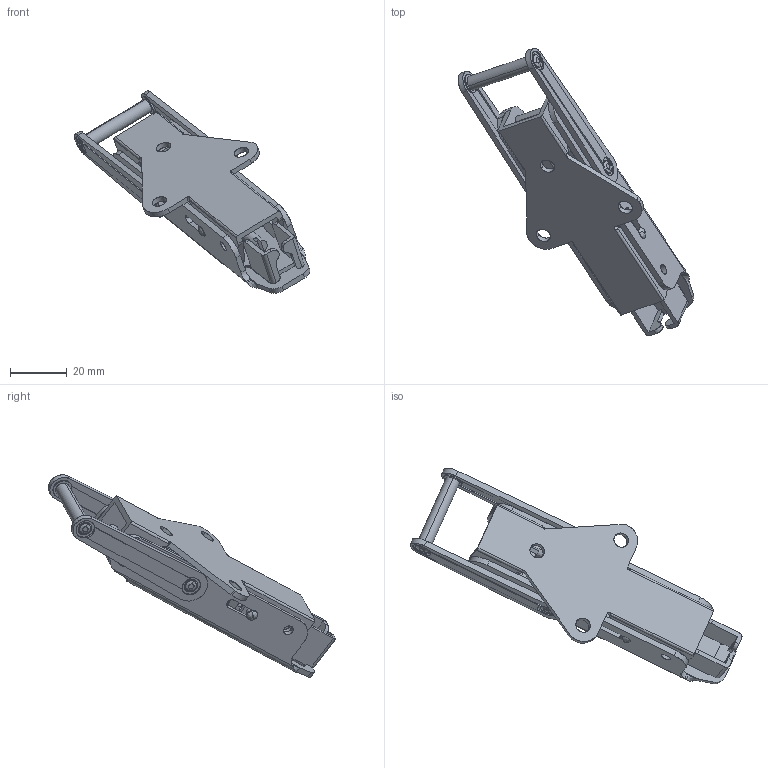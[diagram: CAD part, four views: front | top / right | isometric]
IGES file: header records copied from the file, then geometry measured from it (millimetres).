
Start section: SolidWorks IGES FILE using analytic representation for surfaces
Global section: file name: C:\Documents and Settings\lecoutey\Bureau\GR 2004\GR 2004.IGS; native system: SolidWorks 2004 by SolidWorks Corporation; preprocessor: Version 5.3; author: lecoutey; date: 050405.100651; units: millimetre
Bounding box: 82.81 x 100.97 x 71.14 mm (x, y, z)
Surface area: 27653.1 mm2 (no closed solid volume)
Topology: 0 solids, 0 shells, 474 faces, 7083 edges, 7083 vertices
Faces by surface type: bspline 252, revolution 222
